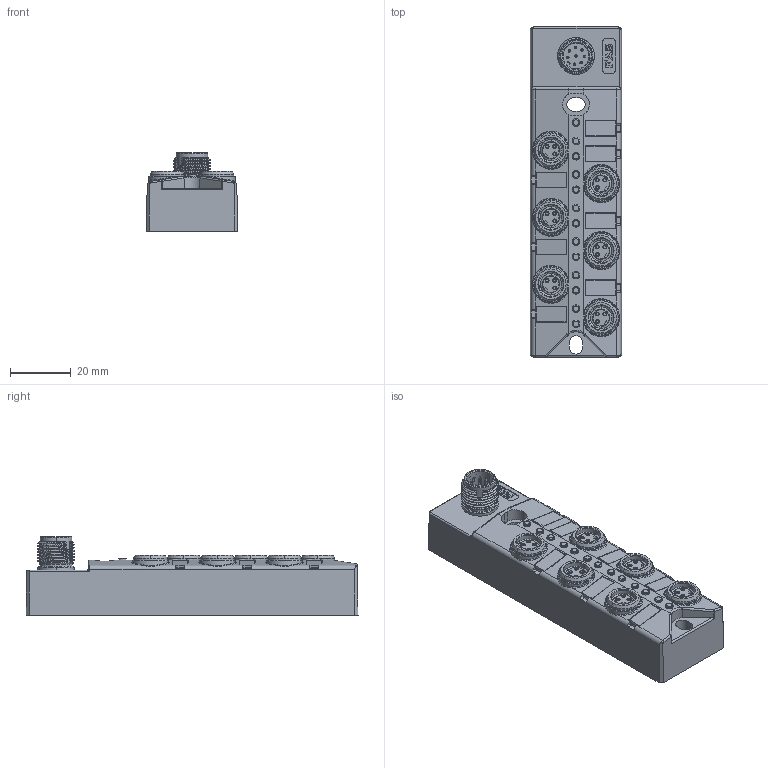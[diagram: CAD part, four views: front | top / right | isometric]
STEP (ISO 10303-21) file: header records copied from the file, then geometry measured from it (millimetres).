
FILE_DESCRIPTION (( 'STEP AP203' ), '1' );
FILE_NAME ('23P6S1(23N6S1).STEP', '2020-05-14T06:59:35', ( '' ), ( '' ), 'SwSTEP 2.0', 'SolidWorks 2016', '' );
FILE_SCHEMA (( 'CONFIG_CONTROL_DESIGN' ));
Length unit declared in the file: millimetre
Products named in the file (1): 23P6S1(23N6S1)
Bounding box: 29.94 x 108.94 x 25.75 mm (x, y, z)
Volume: 47729.8 mm3; surface area: 19315.8 mm2
Topology: 1 solids, 1 shells, 2256 faces, 6734 edges, 4526 vertices
Faces by surface type: plane 747, cylinder 647, cone 486, bspline 376
Entity records: 111412 total; most frequent: CARTESIAN_POINT 59298, ORIENTED_EDGE 13432, DIRECTION 7313, EDGE_CURVE 6716, VERTEX_POINT 4526, B_SPLINE_CURVE_WITH_KNOTS 3511, AXIS2_PLACEMENT_3D 2632, EDGE_LOOP 2400
